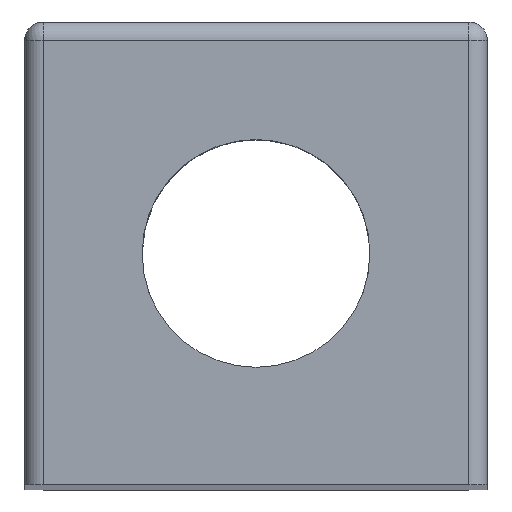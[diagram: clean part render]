
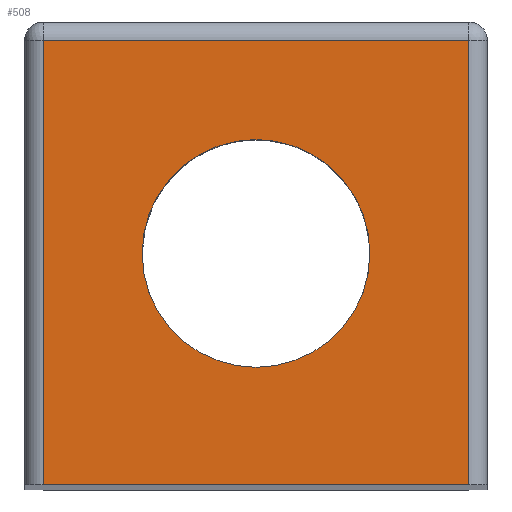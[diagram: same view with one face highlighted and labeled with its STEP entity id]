
A CAD part, top view. The second image highlights one B-rep face of the part: STEP entity #508.
In plain terms, the highlighted planar face has unit normal (0, 0, 1).
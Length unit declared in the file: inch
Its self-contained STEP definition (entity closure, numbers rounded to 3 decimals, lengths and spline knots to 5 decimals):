
#16=FACE_BOUND('',#105,.T.);
#32=PLANE('',#594);
#71=FACE_OUTER_BOUND('',#104,.T.);
#104=EDGE_LOOP('',(#456,#457,#458,#459));
#105=EDGE_LOOP('',(#460));
#120=LINE('',#836,#157);
#139=LINE('',#892,#176);
#140=LINE('',#898,#177);
#141=LINE('',#900,#178);
#157=VECTOR('',#675,0.3937);
#176=VECTOR('',#740,0.3937);
#177=VECTOR('',#749,0.3937);
#178=VECTOR('',#752,0.3937);
#206=CIRCLE('',#593,0.12303);
#228=VERTEX_POINT('',#833);
#229=VERTEX_POINT('',#835);
#243=VERTEX_POINT('',#888);
#244=VERTEX_POINT('',#894);
#247=VERTEX_POINT('',#907);
#281=EDGE_CURVE('',#229,#228,#120,.T.);
#310=EDGE_CURVE('',#243,#228,#139,.T.);
#313=EDGE_CURVE('',#229,#244,#140,.T.);
#314=EDGE_CURVE('',#244,#243,#141,.T.);
#317=EDGE_CURVE('',#247,#247,#206,.T.);
#456=ORIENTED_EDGE('',*,*,#313,.F.);
#457=ORIENTED_EDGE('',*,*,#281,.T.);
#458=ORIENTED_EDGE('',*,*,#310,.F.);
#459=ORIENTED_EDGE('',*,*,#314,.F.);
#460=ORIENTED_EDGE('',*,*,#317,.T.);
#508=ADVANCED_FACE('',(#71,#16),#32,.T.);
#593=AXIS2_PLACEMENT_3D('',#908,#761,#762);
#594=AXIS2_PLACEMENT_3D('',#910,#764,#765);
#675=DIRECTION('',(1.,0.,0.));
#740=DIRECTION('',(0.,-1.,0.));
#749=DIRECTION('',(0.,1.,0.));
#752=DIRECTION('',(1.,0.,0.));
#761=DIRECTION('center_axis',(0.,0.,-1.));
#762=DIRECTION('ref_axis',(1.,0.,0.));
#764=DIRECTION('center_axis',(0.,0.,1.));
#765=DIRECTION('ref_axis',(1.,0.,0.));
#833=CARTESIAN_POINT('',(-0.02,0.,0.));
#835=CARTESIAN_POINT('',(-0.48,0.,0.));
#836=CARTESIAN_POINT('',(-0.5,0.,0.));
#888=CARTESIAN_POINT('',(-0.02,0.48,0.));
#892=CARTESIAN_POINT('',(-0.02,0.,0.));
#894=CARTESIAN_POINT('',(-0.48,0.48,0.));
#898=CARTESIAN_POINT('',(-0.48,0.,0.));
#900=CARTESIAN_POINT('',(-0.375,0.48,0.));
#907=CARTESIAN_POINT('',(-0.37303,0.25,0.));
#908=CARTESIAN_POINT('Origin',(-0.25,0.25,0.));
#910=CARTESIAN_POINT('Origin',(-0.5,0.,0.));
